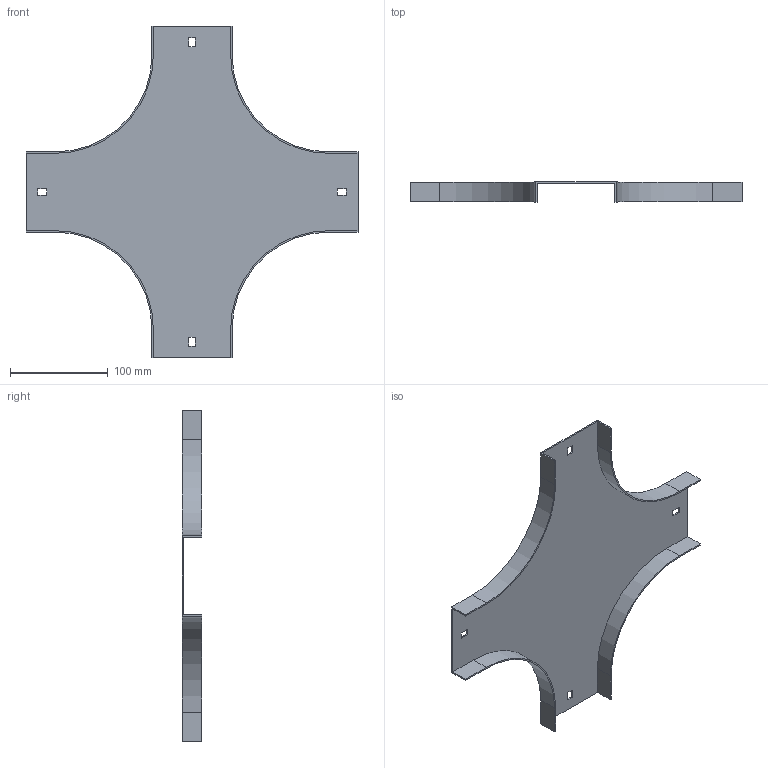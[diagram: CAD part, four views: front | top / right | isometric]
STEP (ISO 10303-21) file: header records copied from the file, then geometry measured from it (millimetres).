
FILE_DESCRIPTION (( 'STEP AP214' ), '1' );
FILE_NAME ('17G1R075.step', '2025-02-21T13:03:04', ( '' ), ( '' ), 'SwSTEP 2.0', 'SolidWorks 2023', '' );
FILE_SCHEMA (( 'AUTOMOTIVE_DESIGN' ));
Length unit declared in the file: millimetre
Products named in the file (1): 17G1R075
Bounding box: 339 x 20 x 339 mm (x, y, z)
Volume: 109414.8 mm3; surface area: 148074.7 mm2
Topology: 1 solids, 1 shells, 50 faces, 144 edges, 96 vertices
Faces by surface type: plane 42, cylinder 8
Entity records: 1663 total; most frequent: CARTESIAN_POINT 291, ORIENTED_EDGE 288, DIRECTION 262, EDGE_CURVE 144, VECTOR 128, LINE 128, VERTEX_POINT 96, AXIS2_PLACEMENT_3D 67
